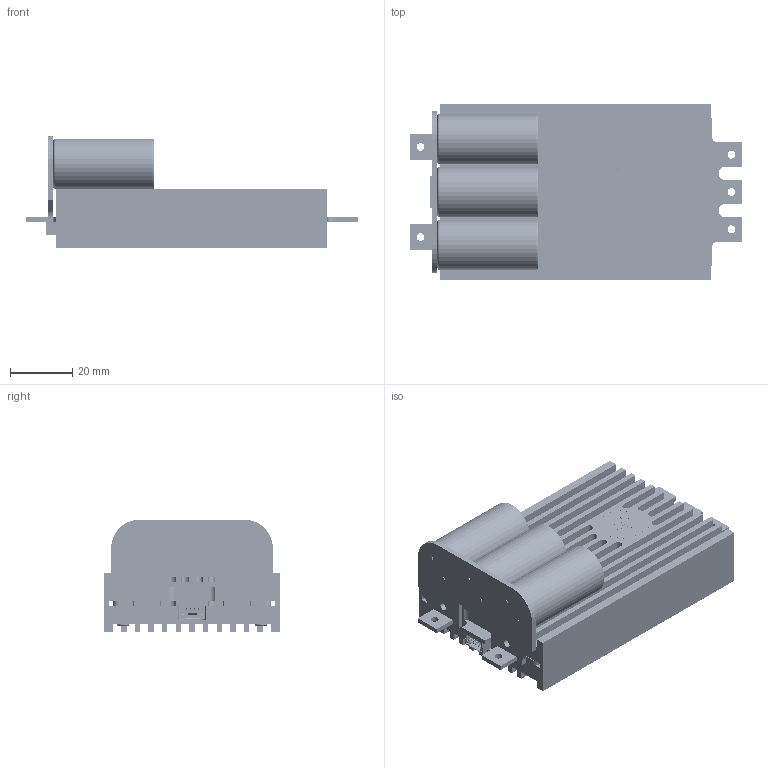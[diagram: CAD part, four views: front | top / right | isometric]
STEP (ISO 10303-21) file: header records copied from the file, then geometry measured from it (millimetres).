
FILE_DESCRIPTION (( 'STEP AP214' ), '1' );
FILE_NAME ('LUCID ESC 16S - website updated.STEP', '2025-12-09T08:30:28', ( '' ), ( '' ), 'SwSTEP 2.0', 'SolidWorks 2025', '' );
FILE_SCHEMA (( 'AUTOMOTIVE_DESIGN' ));
Length unit declared in the file: millimetre
Products named in the file (333): R17.step_1.STEP; Extruded-3.step_1.STEP; Diode_Nexperia_PESD24VF1BLYL_eec.step_1.STEP; Murata.step_1.STEP; Extruded.step_1.STEP; J3.step_1.STEP; Diode_Littelfuse_Inc_SMCJ24A_eec-22.step_1.STEP; 7813229088.step_1.STEP; J80.step_1.STEP; 7361789296.step_1.STEP; J10.step_1.STEP; Extruded-10.step_1.STEP; C49.step_1.STEP; C37.step_1.STEP; J55.step_1.STEP; ESC16S-assembly-B6(for CNC).STEP; J73.step_1.STEP; C27.step_1.STEP; J12.step_1.STEP; J104.step_1.STEP; J24.step_1.STEP; INDUCTOR_2520.step_1.STEP; R2725.step_1.STEP; 2.step_1.STEP; SOLID.step_1.STEP; J51.step_1.STEP; Diode_Littelfuse_Inc_SMCJ24A_eec-16.step_1.STEP; R21.step_1.STEP; CAPPDB16S_B2_1.STEP; J69.step_1.STEP; Extruded-4.step_1.STEP; C1.step_1.STEP; J16.step_1.STEP; Q10.step_1.STEP; R28.step_1.STEP; R5.step_1.STEP; J85.step_1.STEP; J19.step_1.STEP; C42.step_1.STEP; Open CASCADE STEP translator 6.8 2.1.step_1.STEP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
Assembly tree (602 placements, depth 8):
  LUCID ESC 16S - website updated
    ESC16S-assembly-B6(for CNC).STEP
      ESC16S_MP_1.STEP
        ESC16S_MP.step_2.STEP
          Board.step_1.STEP
            Open CASCADE STEP translator 7.5 1.1.1.step_1.STEP
          R36.step_1.STEP
            7355833792.step_1.STEP  x2
              Extruded.step_1.STEP
            7355833632.step_1.STEP
              Extruded-0.step_1.STEP
          C55.step_1.STEP
            CAP 1210-2.2mm.step_1.STEP
          C54.step_1.STEP
            CAP 1210-2.2mm.step_1.STEP
          C53.step_1.STEP
            CAP 1210-2.2mm.step_1.STEP
          C52.step_1.STEP
            CAP 1210-2.2mm.step_1.STEP
          C51.step_1.STEP
            CAP 1210-2.2mm.step_1.STEP
          C20.step_1.STEP
            CAP 1210-2.2mm.step_1.STEP
          C19.step_1.STEP
            CAP 1210-2.2mm.step_1.STEP
          C18.step_1.STEP
            CAP 1210-2.2mm.step_1.STEP
          C17.step_1.STEP
            CAP 1210-2.2mm.step_1.STEP
          J104.step_1.STEP
            9311364480.step_1.STEP
              Extruded-1.step_1.STEP
          J103.step_1.STEP
            9311364480.step_1.STEP
              Extruded-1.step_1.STEP
          J102.step_1.STEP
            9311364480.step_1.STEP
              Extruded-1.step_1.STEP
          J101.step_1.STEP
            9311364480.step_1.STEP
              Extruded-1.step_1.STEP
          J100.step_1.STEP
            9311364480.step_1.STEP
              Extruded-1.step_1.STEP
          J94.step_1.STEP
            9311364480.step_1.STEP
              Extruded-1.step_1.STEP
          J93.step_1.STEP
            9311364480.step_1.STEP
              Extruded-1.step_1.STEP
          J92.step_1.STEP
            9311364480.step_1.STEP
              Extruded-1.step_1.STEP
          J88.step_1.STEP
            9311364480.step_1.STEP
              Extruded-1.step_1.STEP
          J86.step_1.STEP
            9311364480.step_1.STEP
              Extruded-1.step_1.STEP
          J85.step_1.STEP
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Bounding box: 107 x 56.67 x 36.25 mm (x, y, z)
Volume: 93243.5 mm3; surface area: 92469.8 mm2
Topology: 875 solids, 876 shells, 17789 faces, 44784 edges, 28504 vertices
Faces by surface type: plane 9355, bspline 3698, cylinder 3220, sphere 1344, torus 112, cone 60
Entity records: 199300 total; most frequent: CARTESIAN_POINT 53422, ORIENTED_EDGE 29300, DIRECTION 25708, EDGE_CURVE 14651, VECTOR 10050, LINE 10050, VERTEX_POINT 9562, AXIS2_PLACEMENT_3D 7829
